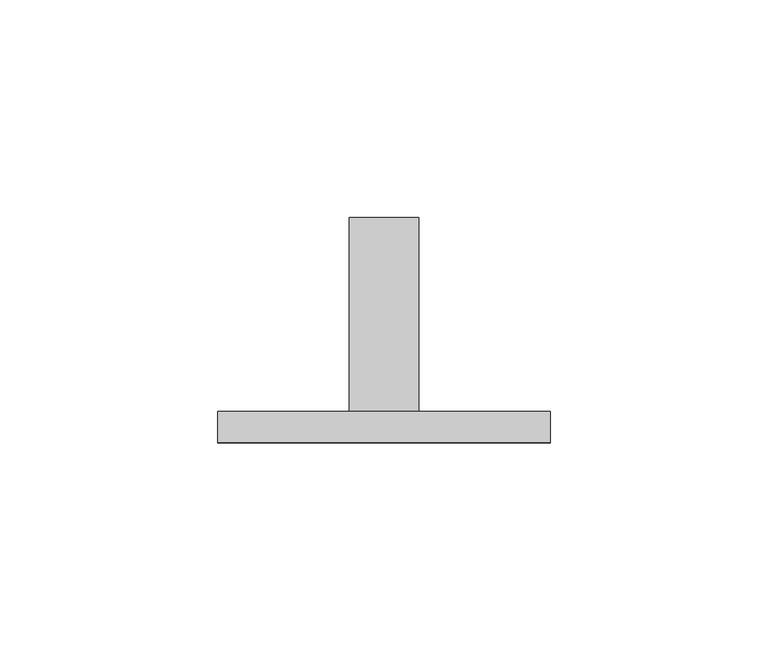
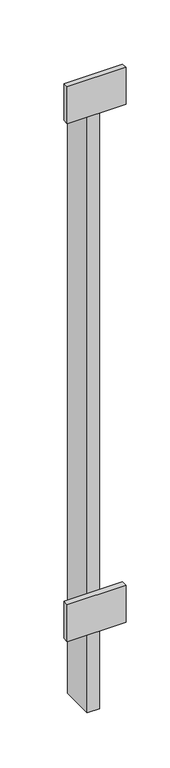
"""IFC4 building model written with IfcOpenShell, lengths in millimetres: proxy geometry, Baluster-End-Post-VIVA-STRUC-Top Mount : WELDED STEEL CHANNEL_TOP MOUNT STRUC_STRAIGHT."""

from ifc_helpers import new_model, si_unit, frame, origin, place, context, project, spatial, polyline, outline, extrude, source, transform, mapped, element, save


def building_element_proxy_a79f7dfa(model_context):
    return source(origin(), model_context, "Body", "SweptSolid", [
        extrude(outline(polyline([(58.9780808, -123.8478567), (58.9780808, -116.7358567), (135.1795192, -116.7358567), (135.1795192, -123.8478567), (58.9780808, -123.8478567)])), frame((0.0, 0.0, 824.3906928), z_axis=(0.0, 0.0, 1.0), x_axis=(1.0, 0.0, 0.0)), (0.0, 0.0, 1.0), 50.8),
        extrude(outline(polyline([(58.9780808, -123.8478567), (58.9780808, -116.7358567), (135.1795192, -116.7358567), (135.1795192, -123.8478567), (58.9780808, -123.8478567)])), frame((0.0, 0.0, 113.1906928), z_axis=(0.0, 0.0, 1.0), x_axis=(1.0, 0.0, 0.0)), (0.0, 0.0, 1.0), 50.8),
        extrude(outline(polyline([(89.1413, -72.2858567), (105.0163, -72.2858567), (105.0163, -116.7358567), (89.1413, -116.7358567), (89.1413, -72.2858567)])), frame((0.0, 0.0, 0.5143555), z_axis=(0.0, 0.0, 1.0), x_axis=(1.0, 0.0, 0.0)), (0.0, 0.0, 1.0), 831.2594445),
    ])


if __name__ == "__main__":
    model = new_model("IFC4")
    model_context = context("Model", 3, world=origin())
    ifc_project = project(units=[si_unit("LENGTHUNIT", "METRE", prefix="MILLI")], contexts=[model_context])
    site = spatial("IfcSite", under=ifc_project)
    building = spatial("IfcBuilding", under=site)
    placement = place(None, origin())
    building_element_proxy_shape = building_element_proxy_a79f7dfa(model_context)
    element("IfcBuildingElementProxy", 1, Name="Baluster-End-Post-VIVA-STRUC-Top Mount : WELDED STEEL CHANNEL_TOP MOUNT STRUC_STRAIGHT", ObjectType="Baluster-End-Post-VIVA-STRUC-Top Mount : WELDED STEEL CHANNEL_TOP MOUNT STRUC_STRAIGHT", at=placement, inside=building, context=model_context, shape_type="MappedRepresentation", body=[
        mapped(building_element_proxy_shape, transform((0.0, 0.0, 0.0), x_axis=(1.0, 0.0, 0.0), y_axis=(0.0, 1.0, 0.0), z_axis=(0.0, 0.0, 1.0))),
    ])
    save(model, "model.ifc")
